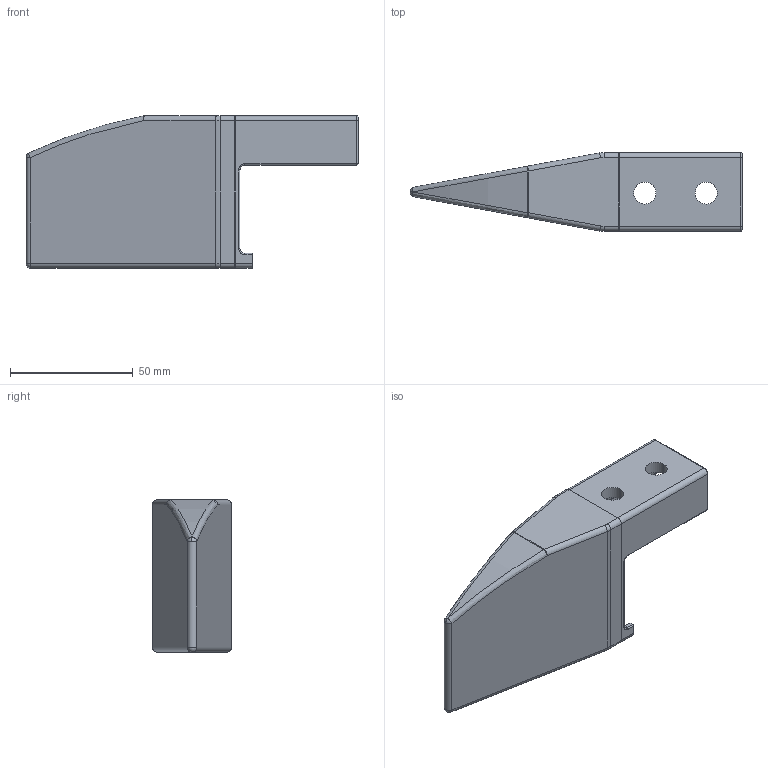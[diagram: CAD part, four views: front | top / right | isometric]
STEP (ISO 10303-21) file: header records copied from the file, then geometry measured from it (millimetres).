
FILE_DESCRIPTION (( 'STEP AP214' ), '1' );
FILE_NAME ('FGEC C1.step', '2017-04-05T07:37:12', ( '' ), ( '' ), 'SwSTEP 2.0', 'SolidWorks 2015', '' );
FILE_SCHEMA (( 'AUTOMOTIVE_DESIGN' ));
Length unit declared in the file: millimetre
Products named in the file (1): FGEC C1
Bounding box: 135 x 32 x 62 mm (x, y, z)
Volume: 110530.3 mm3; surface area: 22103.6 mm2
Topology: 1 solids, 1 shells, 121 faces, 282 edges, 159 vertices
Faces by surface type: cylinder 55, plane 33, torus 20, sphere 11, bspline 2
Entity records: 3460 total; most frequent: DIRECTION 646, CARTESIAN_POINT 627, ORIENTED_EDGE 556, EDGE_CURVE 278, AXIS2_PLACEMENT_3D 254, VERTEX_POINT 159, LINE 138, VECTOR 138
